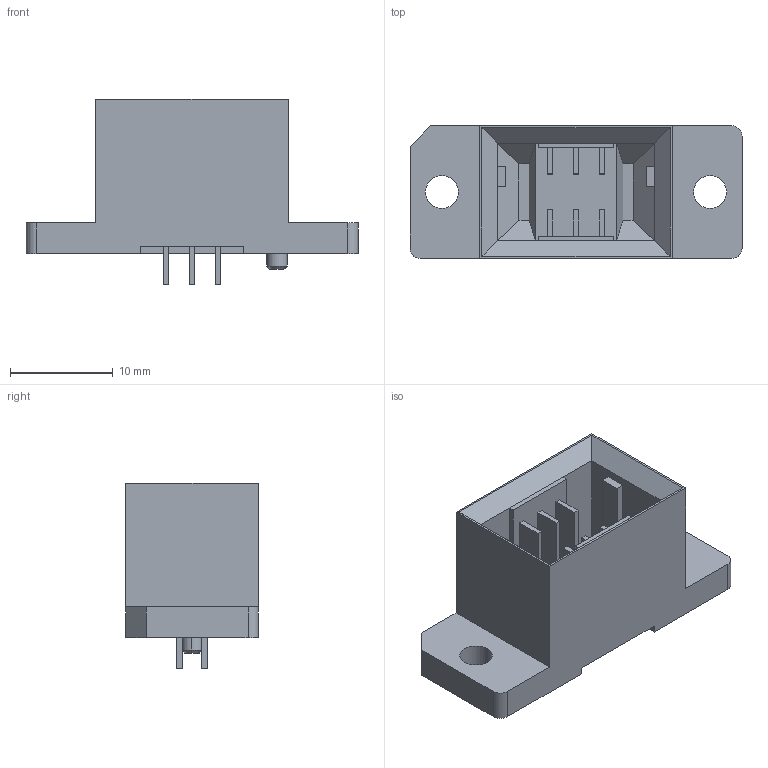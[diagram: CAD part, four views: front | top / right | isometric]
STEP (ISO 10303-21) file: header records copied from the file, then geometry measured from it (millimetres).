
FILE_DESCRIPTION(('CoCreate Modeling STEP Export'),'2;1');
FILE_NAME('P3A946_FA11-006.stp','2017-07-27T15:50:45',(''),(''),'CoCreate Modeling STEP processor for AP214 (Solid Model)','CoCreate Modeling 17.0B 09-Oct-2010 (C) Parametric Technology GmbH','');
FILE_SCHEMA(('AUTOMOTIVE_DESIGN { 1 0 10303 214 1 1 1 1 }'));
Length unit declared in the file: millimetre
Products named in the file (2): FA11-006
Assembly tree (1 placements, depth 2):
  FA11-006
    FA11-006
Bounding box: 32.3 x 12.9 x 18 mm (x, y, z)
Volume: 2363 mm3; surface area: 2823.6 mm2
Topology: 1 solids, 1 shells, 122 faces, 319 edges, 207 vertices
Faces by surface type: plane 111, cylinder 9, cone 2
Entity records: 3621 total; most frequent: ORIENTED_EDGE 638, CARTESIAN_POINT 628, DIRECTION 554, EDGE_CURVE 319, VECTOR 288, LINE 288, VERTEX_POINT 207, EDGE_LOOP 134
